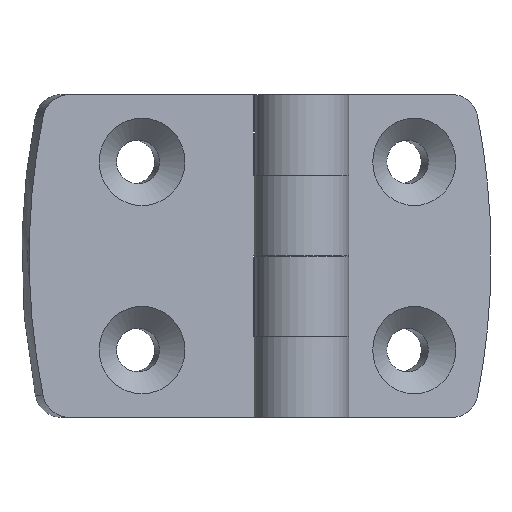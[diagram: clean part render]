
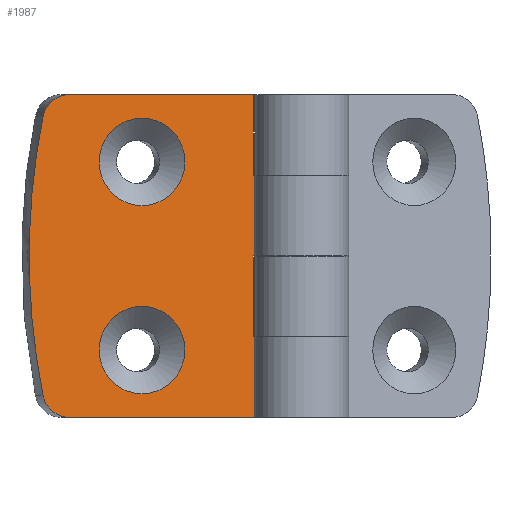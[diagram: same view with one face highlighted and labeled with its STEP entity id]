
A CAD part, left-side view. The second image highlights one B-rep face of the part: STEP entity #1987.
In plain terms, the highlighted planar face has unit normal (-0.982, -0.188, 0) as drawn and (-0.05, 0.999, 0) by its records, which use the part's own axes.
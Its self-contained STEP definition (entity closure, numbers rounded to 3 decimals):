
#1326=CARTESIAN_POINT('',(-17.504,1.975,10.));
#1327=VERTEX_POINT('',#1326);
#1328=CARTESIAN_POINT('',(-23.995,1.651,10.));
#1329=DIRECTION('',(0.05,-0.999,0.0));
#1330=DIRECTION('',(0.999,0.05,0.0));
#1331=AXIS2_PLACEMENT_3D('',#1328,#1329,#1330);
#1332=CIRCLE('',#1331,6.5);
#1333=EDGE_CURVE('',#1327,#1327,#1332,.T.);
#1416=CARTESIAN_POINT('',(-17.504,1.975,38.));
#1417=VERTEX_POINT('',#1416);
#1418=CARTESIAN_POINT('',(-23.995,1.651,38.));
#1419=DIRECTION('',(0.05,-0.999,0.0));
#1420=DIRECTION('',(0.999,0.05,0.0));
#1421=AXIS2_PLACEMENT_3D('',#1418,#1419,#1420);
#1422=CIRCLE('',#1421,6.5);
#1423=EDGE_CURVE('',#1417,#1417,#1422,.T.);
#1485=CARTESIAN_POINT('',(-7.199,2.491,36.));
#1486=VERTEX_POINT('',#1485);
#1487=CARTESIAN_POINT('',(-7.199,2.491,24.));
#1488=VERTEX_POINT('',#1487);
#1489=CARTESIAN_POINT('',(-7.199,2.491,36.));
#1490=DIRECTION('',(0.0,0.0,-1.0));
#1491=VECTOR('',#1490,12.);
#1492=LINE('',#1489,#1491);
#1493=EDGE_CURVE('',#1486,#1488,#1492,.T.);
#1525=CARTESIAN_POINT('',(-7.017,2.5,24.));
#1526=VERTEX_POINT('',#1525);
#1527=CARTESIAN_POINT('',(-7.199,2.491,24.));
#1528=DIRECTION('',(0.999,0.05,0.0));
#1529=VECTOR('',#1528,0.183);
#1530=LINE('',#1527,#1529);
#1531=EDGE_CURVE('',#1488,#1526,#1530,.T.);
#1609=CARTESIAN_POINT('',(-7.017,2.5,36.));
#1610=VERTEX_POINT('',#1609);
#1611=CARTESIAN_POINT('',(-7.017,2.5,36.));
#1612=DIRECTION('',(-0.999,-0.05,0.0));
#1613=VECTOR('',#1612,0.183);
#1614=LINE('',#1611,#1613);
#1615=EDGE_CURVE('',#1610,#1486,#1614,.T.);
#1693=CARTESIAN_POINT('',(-7.199,2.491,12.));
#1694=VERTEX_POINT('',#1693);
#1695=CARTESIAN_POINT('',(-7.199,2.491,0.));
#1696=VERTEX_POINT('',#1695);
#1697=CARTESIAN_POINT('',(-7.199,2.491,12.));
#1698=DIRECTION('',(0.0,0.0,-1.0));
#1699=VECTOR('',#1698,12.);
#1700=LINE('',#1697,#1699);
#1701=EDGE_CURVE('',#1694,#1696,#1700,.T.);
#1733=CARTESIAN_POINT('',(-7.017,2.5,12.));
#1734=VERTEX_POINT('',#1733);
#1735=CARTESIAN_POINT('',(-7.017,2.5,12.));
#1736=DIRECTION('',(-0.999,-0.05,0.0));
#1737=VECTOR('',#1736,0.183);
#1738=LINE('',#1735,#1737);
#1739=EDGE_CURVE('',#1734,#1694,#1738,.T.);
#1876=CARTESIAN_POINT('',(-7.017,2.5,12.));
#1877=DIRECTION('',(0.0,0.0,1.0));
#1878=VECTOR('',#1877,12.0);
#1879=LINE('',#1876,#1878);
#1880=EDGE_CURVE('',#1734,#1526,#1879,.T.);
#1902=CARTESIAN_POINT('',(-41.,0.8,0.0));
#1903=DIRECTION('',(-0.05,0.999,0.0));
#1904=DIRECTION('',(0.0,0.0,1.0));
#1905=AXIS2_PLACEMENT_3D('',#1902,#1903,#1904);
#1906=PLANE('',#1905);
#1907=ORIENTED_EDGE('',*,*,#1615,.T.);
#1908=ORIENTED_EDGE('',*,*,#1493,.T.);
#1909=ORIENTED_EDGE('',*,*,#1531,.T.);
#1910=ORIENTED_EDGE('',*,*,#1880,.F.);
#1911=ORIENTED_EDGE('',*,*,#1739,.T.);
#1912=ORIENTED_EDGE('',*,*,#1701,.T.);
#1913=CARTESIAN_POINT('',(-35.044,1.098,0.0));
#1914=VERTEX_POINT('',#1913);
#1915=CARTESIAN_POINT('',(-7.199,2.491,0.));
#1916=DIRECTION('',(-0.999,-0.05,0.));
#1917=VECTOR('',#1916,27.88);
#1918=LINE('',#1915,#1917);
#1919=EDGE_CURVE('',#1696,#1914,#1918,.T.);
#1920=ORIENTED_EDGE('',*,*,#1919,.T.);
#1921=CARTESIAN_POINT('',(-38.959,0.902,3.2));
#1922=VERTEX_POINT('',#1921);
#1923=CARTESIAN_POINT('',(-35.044,1.098,4.));
#1924=DIRECTION('',(0.05,-0.999,0.));
#1925=DIRECTION('',(-0.632,-0.032,-0.775));
#1926=AXIS2_PLACEMENT_3D('',#1923,#1924,#1925);
#1927=CIRCLE('',#1926,4.0);
#1928=EDGE_CURVE('',#1922,#1914,#1927,.T.);
#1929=ORIENTED_EDGE('',*,*,#1928,.F.);
#1930=CARTESIAN_POINT('',(-41.,0.8,20.567));
#1931=VERTEX_POINT('',#1930);
#1932=CARTESIAN_POINT('',(62.853,5.995,24.));
#1933=DIRECTION('',(-0.05,0.999,0.));
#1934=DIRECTION('',(0.972,0.049,0.231));
#1935=AXIS2_PLACEMENT_3D('',#1932,#1933,#1934);
#1936=CIRCLE('',#1935,104.039);
#1937=EDGE_CURVE('',#1922,#1931,#1936,.T.);
#1938=ORIENTED_EDGE('',*,*,#1937,.T.);
#1939=CARTESIAN_POINT('',(-41.,0.8,27.433));
#1940=VERTEX_POINT('',#1939);
#1941=CARTESIAN_POINT('',(-41.,0.8,20.567));
#1942=DIRECTION('',(0.0,0.0,1.0));
#1943=VECTOR('',#1942,6.865);
#1944=LINE('',#1941,#1943);
#1945=EDGE_CURVE('',#1931,#1940,#1944,.T.);
#1946=ORIENTED_EDGE('',*,*,#1945,.T.);
#1947=CARTESIAN_POINT('',(-38.959,0.902,44.8));
#1948=VERTEX_POINT('',#1947);
#1949=CARTESIAN_POINT('',(62.853,5.995,24.));
#1950=DIRECTION('',(-0.05,0.999,0.));
#1951=DIRECTION('',(0.972,0.049,0.231));
#1952=AXIS2_PLACEMENT_3D('',#1949,#1950,#1951);
#1953=CIRCLE('',#1952,104.039);
#1954=EDGE_CURVE('',#1940,#1948,#1953,.T.);
#1955=ORIENTED_EDGE('',*,*,#1954,.T.);
#1956=CARTESIAN_POINT('',(-35.044,1.098,48.));
#1957=VERTEX_POINT('',#1956);
#1958=CARTESIAN_POINT('',(-35.044,1.098,44.));
#1959=DIRECTION('',(0.05,-0.999,0.));
#1960=DIRECTION('',(-0.632,-0.032,0.775));
#1961=AXIS2_PLACEMENT_3D('',#1958,#1959,#1960);
#1962=CIRCLE('',#1961,4.0);
#1963=EDGE_CURVE('',#1957,#1948,#1962,.T.);
#1964=ORIENTED_EDGE('',*,*,#1963,.F.);
#1965=CARTESIAN_POINT('',(-7.017,2.5,48.));
#1966=VERTEX_POINT('',#1965);
#1967=CARTESIAN_POINT('',(-35.044,1.098,48.));
#1968=DIRECTION('',(0.999,0.05,0.0));
#1969=VECTOR('',#1968,28.063);
#1970=LINE('',#1967,#1969);
#1971=EDGE_CURVE('',#1957,#1966,#1970,.T.);
#1972=ORIENTED_EDGE('',*,*,#1971,.T.);
#1973=CARTESIAN_POINT('',(-7.017,2.5,36.));
#1974=DIRECTION('',(0.0,0.0,1.0));
#1975=VECTOR('',#1974,12.0);
#1976=LINE('',#1973,#1975);
#1977=EDGE_CURVE('',#1610,#1966,#1976,.T.);
#1978=ORIENTED_EDGE('',*,*,#1977,.F.);
#1979=EDGE_LOOP('',(#1907,#1908,#1909,#1910,#1911,#1912,#1920,#1929,#1938,#1946,#1955,#1964,#1972,#1978));
#1980=FACE_OUTER_BOUND('',#1979,.T.);
#1981=ORIENTED_EDGE('',*,*,#1333,.T.);
#1982=EDGE_LOOP('',(#1981));
#1983=FACE_BOUND('',#1982,.T.);
#1984=ORIENTED_EDGE('',*,*,#1423,.T.);
#1985=EDGE_LOOP('',(#1984));
#1986=FACE_BOUND('',#1985,.T.);
#1987=ADVANCED_FACE('',(#1980,#1983,#1986),#1906,.T.);
